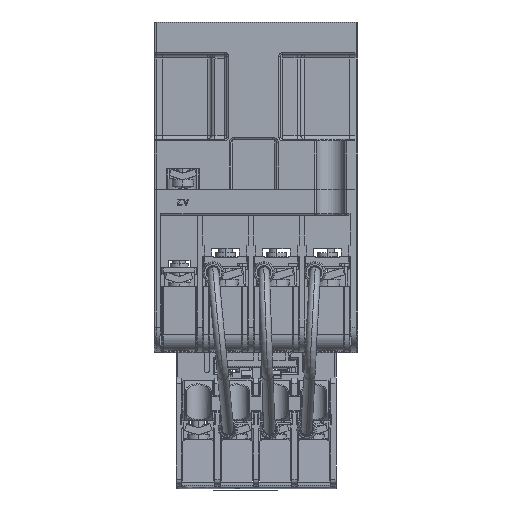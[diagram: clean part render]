
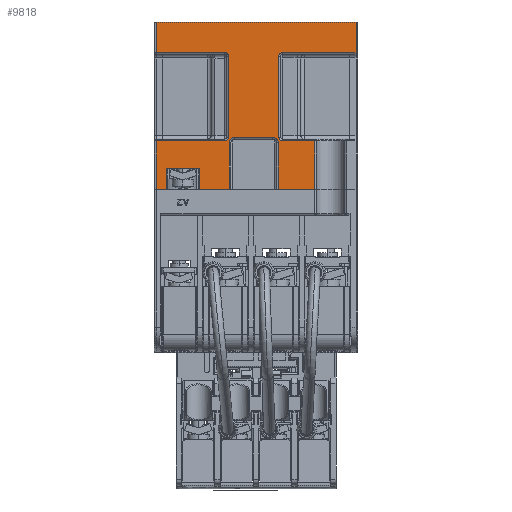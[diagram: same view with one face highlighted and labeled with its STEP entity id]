
A CAD part, front view. The second image highlights one B-rep face of the part: STEP entity #9818.
In plain terms, the highlighted planar face has unit normal (0, -1, 0).
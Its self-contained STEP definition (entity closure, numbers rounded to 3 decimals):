
#180=DIRECTION('',(0.,0.,1.));
#181=VECTOR('',#180,5.8);
#182=CARTESIAN_POINT('',(-24.5,-41.1,0.));
#183=LINE('',#182,#181);
#184=DIRECTION('',(-1.,0.,0.));
#185=VECTOR('',#184,3.);
#186=CARTESIAN_POINT('',(-24.5,-41.1,0.));
#187=LINE('',#186,#185);
#188=DIRECTION('',(0.,0.,-1.));
#189=VECTOR('',#188,13.3);
#190=CARTESIAN_POINT('',(-27.5,-41.1,13.3));
#191=LINE('',#190,#189);
#192=DIRECTION('',(-1.,0.,0.));
#193=VECTOR('',#192,18.9);
#194=CARTESIAN_POINT('',(-8.6,-41.1,13.3));
#195=LINE('',#194,#193);
#196=CARTESIAN_POINT('',(-8.6,-41.1,14.3));
#197=DIRECTION('',(0.,1.,0.));
#198=DIRECTION('',(1.,0.,0.));
#199=AXIS2_PLACEMENT_3D('',#196,#197,#198);
#201=DIRECTION('',(0.,0.,-1.));
#202=VECTOR('',#201,22.3);
#203=CARTESIAN_POINT('',(-7.6,-41.1,36.6));
#204=LINE('',#203,#202);
#205=CARTESIAN_POINT('',(-8.6,-41.1,36.6));
#206=DIRECTION('',(0.,1.,0.));
#207=DIRECTION('',(0.,0.,1.));
#208=AXIS2_PLACEMENT_3D('',#205,#206,#207);
#210=DIRECTION('',(1.,0.,0.));
#211=VECTOR('',#210,18.9);
#212=CARTESIAN_POINT('',(-27.5,-41.1,37.6));
#213=LINE('',#212,#211);
#214=DIRECTION('',(0.,0.,-1.));
#215=VECTOR('',#214,8.4);
#216=CARTESIAN_POINT('',(-27.5,-41.1,46.));
#217=LINE('',#216,#215);
#218=DIRECTION('',(1.,0.,0.));
#219=VECTOR('',#218,55.);
#220=CARTESIAN_POINT('',(-27.5,-41.1,46.));
#221=LINE('',#220,#219);
#222=DIRECTION('',(0.,0.,1.));
#223=VECTOR('',#222,8.4);
#224=CARTESIAN_POINT('',(27.5,-41.1,37.6));
#225=LINE('',#224,#223);
#226=DIRECTION('',(1.,0.,0.));
#227=VECTOR('',#226,20.2);
#228=CARTESIAN_POINT('',(7.3,-41.1,37.6));
#229=LINE('',#228,#227);
#230=CARTESIAN_POINT('',(7.3,-41.1,36.6));
#231=DIRECTION('',(0.,1.,0.));
#232=DIRECTION('',(-1.,0.,0.));
#233=AXIS2_PLACEMENT_3D('',#230,#231,#232);
#235=DIRECTION('',(0.,0.,1.));
#236=VECTOR('',#235,22.3);
#237=CARTESIAN_POINT('',(6.3,-41.1,14.3));
#238=LINE('',#237,#236);
#239=CARTESIAN_POINT('',(7.3,-41.1,14.3));
#240=DIRECTION('',(0.,1.,0.));
#241=DIRECTION('',(0.,0.,-1.));
#242=AXIS2_PLACEMENT_3D('',#239,#240,#241);
#244=DIRECTION('',(-1.,0.,0.));
#245=VECTOR('',#244,8.8);
#246=CARTESIAN_POINT('',(16.1,-41.1,13.3));
#247=LINE('',#246,#245);
#248=DIRECTION('',(0.,0.,1.));
#249=VECTOR('',#248,13.3);
#250=CARTESIAN_POINT('',(16.1,-41.1,0.));
#251=LINE('',#250,#249);
#252=DIRECTION('',(-1.,0.,0.));
#253=VECTOR('',#252,10.);
#254=CARTESIAN_POINT('',(16.1,-41.1,0.));
#255=LINE('',#254,#253);
#256=DIRECTION('',(0.,0.,-1.));
#257=VECTOR('',#256,12.8);
#258=CARTESIAN_POINT('',(6.1,-41.1,12.8));
#259=LINE('',#258,#257);
#260=CARTESIAN_POINT('',(4.6,-41.1,12.8));
#261=DIRECTION('',(0.,1.,0.));
#262=DIRECTION('',(0.,0.,1.));
#263=AXIS2_PLACEMENT_3D('',#260,#261,#262);
#265=DIRECTION('',(1.,0.,0.));
#266=VECTOR('',#265,10.5);
#267=CARTESIAN_POINT('',(-5.9,-41.1,14.3));
#268=LINE('',#267,#266);
#269=CARTESIAN_POINT('',(-5.9,-41.1,12.8));
#270=DIRECTION('',(0.,1.,0.));
#271=DIRECTION('',(-1.,0.,0.));
#272=AXIS2_PLACEMENT_3D('',#269,#270,#271);
#274=DIRECTION('',(0.,0.,1.));
#275=VECTOR('',#274,12.8);
#276=CARTESIAN_POINT('',(-7.4,-41.1,0.));
#277=LINE('',#276,#275);
#278=DIRECTION('',(-1.,0.,0.));
#279=VECTOR('',#278,8.2);
#280=CARTESIAN_POINT('',(-7.4,-41.1,0.));
#281=LINE('',#280,#279);
#282=DIRECTION('',(0.,0.,-1.));
#283=VECTOR('',#282,5.8);
#284=CARTESIAN_POINT('',(-15.6,-41.1,5.8));
#285=LINE('',#284,#283);
#286=DIRECTION('',(1.,0.,0.));
#287=VECTOR('',#286,8.9);
#288=CARTESIAN_POINT('',(-24.5,-41.1,5.8));
#289=LINE('',#288,#287);
#8383=CARTESIAN_POINT('',(6.1,-41.1,0.));
#8385=VERTEX_POINT('',#8383);
#8389=CARTESIAN_POINT('',(6.1,-41.1,12.8));
#8390=VERTEX_POINT('',#8389);
#8391=CARTESIAN_POINT('',(4.6,-41.1,14.3));
#8392=VERTEX_POINT('',#8391);
#8395=CARTESIAN_POINT('',(-5.9,-41.1,14.3));
#8396=VERTEX_POINT('',#8395);
#8399=CARTESIAN_POINT('',(-7.4,-41.1,12.8));
#8400=VERTEX_POINT('',#8399);
#8404=CARTESIAN_POINT('',(-7.4,-41.1,0.));
#8406=VERTEX_POINT('',#8404);
#8473=CARTESIAN_POINT('',(-27.5,-41.1,0.));
#8475=VERTEX_POINT('',#8473);
#8479=CARTESIAN_POINT('',(-27.5,-41.1,13.3));
#8480=VERTEX_POINT('',#8479);
#8482=CARTESIAN_POINT('',(-27.5,-41.1,46.));
#8484=VERTEX_POINT('',#8482);
#8485=CARTESIAN_POINT('',(-27.5,-41.1,37.6));
#8486=VERTEX_POINT('',#8485);
#8489=CARTESIAN_POINT('',(27.5,-41.1,46.));
#8491=VERTEX_POINT('',#8489);
#8495=CARTESIAN_POINT('',(27.5,-41.1,37.6));
#8496=VERTEX_POINT('',#8495);
#8529=CARTESIAN_POINT('',(-8.6,-41.1,37.6));
#8530=VERTEX_POINT('',#8529);
#8549=CARTESIAN_POINT('',(-8.6,-41.1,13.3));
#8550=VERTEX_POINT('',#8549);
#8585=CARTESIAN_POINT('',(-7.6,-41.1,36.6));
#8586=CARTESIAN_POINT('',(-7.6,-41.1,14.3));
#8587=VERTEX_POINT('',#8585);
#8588=VERTEX_POINT('',#8586);
#8589=CARTESIAN_POINT('',(6.3,-41.1,14.3));
#8590=CARTESIAN_POINT('',(6.3,-41.1,36.6));
#8591=VERTEX_POINT('',#8589);
#8592=VERTEX_POINT('',#8590);
#8595=CARTESIAN_POINT('',(7.3,-41.1,13.3));
#8596=VERTEX_POINT('',#8595);
#8793=CARTESIAN_POINT('',(16.1,-41.1,13.3));
#8794=VERTEX_POINT('',#8793);
#8796=CARTESIAN_POINT('',(16.1,-41.1,0.));
#8798=VERTEX_POINT('',#8796);
#9049=CARTESIAN_POINT('',(7.3,-41.1,37.6));
#9050=VERTEX_POINT('',#9049);
#9387=CARTESIAN_POINT('',(-24.5,-41.1,0.));
#9388=VERTEX_POINT('',#9387);
#9389=CARTESIAN_POINT('',(-24.5,-41.1,5.8));
#9390=VERTEX_POINT('',#9389);
#9391=CARTESIAN_POINT('',(-15.6,-41.1,0.));
#9393=VERTEX_POINT('',#9391);
#9397=CARTESIAN_POINT('',(-15.6,-41.1,5.8));
#9398=VERTEX_POINT('',#9397);
#9759=CARTESIAN_POINT('',(0.,-41.1,0.));
#9760=DIRECTION('',(0.,1.,0.));
#9761=DIRECTION('',(1.,0.,0.));
#9762=AXIS2_PLACEMENT_3D('',#9759,#9760,#9761);
#9763=PLANE('',#9762);
#9765=ORIENTED_EDGE('',*,*,#9764,.F.);
#9767=ORIENTED_EDGE('',*,*,#9766,.T.);
#9769=ORIENTED_EDGE('',*,*,#9768,.F.);
#9771=ORIENTED_EDGE('',*,*,#9770,.F.);
#9773=ORIENTED_EDGE('',*,*,#9772,.F.);
#9775=ORIENTED_EDGE('',*,*,#9774,.F.);
#9777=ORIENTED_EDGE('',*,*,#9776,.F.);
#9779=ORIENTED_EDGE('',*,*,#9778,.F.);
#9781=ORIENTED_EDGE('',*,*,#9780,.F.);
#9783=ORIENTED_EDGE('',*,*,#9782,.T.);
#9785=ORIENTED_EDGE('',*,*,#9784,.F.);
#9787=ORIENTED_EDGE('',*,*,#9786,.F.);
#9789=ORIENTED_EDGE('',*,*,#9788,.F.);
#9791=ORIENTED_EDGE('',*,*,#9790,.F.);
#9793=ORIENTED_EDGE('',*,*,#9792,.F.);
#9795=ORIENTED_EDGE('',*,*,#9794,.F.);
#9797=ORIENTED_EDGE('',*,*,#9796,.F.);
#9799=ORIENTED_EDGE('',*,*,#9798,.T.);
#9801=ORIENTED_EDGE('',*,*,#9800,.F.);
#9803=ORIENTED_EDGE('',*,*,#9802,.F.);
#9805=ORIENTED_EDGE('',*,*,#9804,.F.);
#9807=ORIENTED_EDGE('',*,*,#9806,.F.);
#9809=ORIENTED_EDGE('',*,*,#9808,.F.);
#9811=ORIENTED_EDGE('',*,*,#9810,.T.);
#9813=ORIENTED_EDGE('',*,*,#9812,.F.);
#9815=ORIENTED_EDGE('',*,*,#9814,.F.);
#9816=EDGE_LOOP('',(#9765,#9767,#9769,#9771,#9773,#9775,#9777,#9779,#9781,#9783,
#9785,#9787,#9789,#9791,#9793,#9795,#9797,#9799,#9801,#9803,#9805,#9807,#9809,
#9811,#9813,#9815));
#9817=FACE_OUTER_BOUND('',#9816,.F.);
#9818=ADVANCED_FACE('',(#9817),#9763,.F.);
#200=CIRCLE('',#199,1.);
#209=CIRCLE('',#208,1.);
#234=CIRCLE('',#233,1.);
#243=CIRCLE('',#242,1.);
#264=CIRCLE('',#263,1.5);
#273=CIRCLE('',#272,1.5);
#9764=EDGE_CURVE('',#9388,#9390,#183,.T.);
#9766=EDGE_CURVE('',#9388,#8475,#187,.T.);
#9768=EDGE_CURVE('',#8480,#8475,#191,.T.);
#9770=EDGE_CURVE('',#8550,#8480,#195,.T.);
#9772=EDGE_CURVE('',#8588,#8550,#200,.T.);
#9774=EDGE_CURVE('',#8587,#8588,#204,.T.);
#9776=EDGE_CURVE('',#8530,#8587,#209,.T.);
#9778=EDGE_CURVE('',#8486,#8530,#213,.T.);
#9780=EDGE_CURVE('',#8484,#8486,#217,.T.);
#9782=EDGE_CURVE('',#8484,#8491,#221,.T.);
#9784=EDGE_CURVE('',#8496,#8491,#225,.T.);
#9786=EDGE_CURVE('',#9050,#8496,#229,.T.);
#9788=EDGE_CURVE('',#8592,#9050,#234,.T.);
#9790=EDGE_CURVE('',#8591,#8592,#238,.T.);
#9792=EDGE_CURVE('',#8596,#8591,#243,.T.);
#9794=EDGE_CURVE('',#8794,#8596,#247,.T.);
#9796=EDGE_CURVE('',#8798,#8794,#251,.T.);
#9798=EDGE_CURVE('',#8798,#8385,#255,.T.);
#9800=EDGE_CURVE('',#8390,#8385,#259,.T.);
#9802=EDGE_CURVE('',#8392,#8390,#264,.T.);
#9804=EDGE_CURVE('',#8396,#8392,#268,.T.);
#9806=EDGE_CURVE('',#8400,#8396,#273,.T.);
#9808=EDGE_CURVE('',#8406,#8400,#277,.T.);
#9810=EDGE_CURVE('',#8406,#9393,#281,.T.);
#9812=EDGE_CURVE('',#9398,#9393,#285,.T.);
#9814=EDGE_CURVE('',#9390,#9398,#289,.T.);
